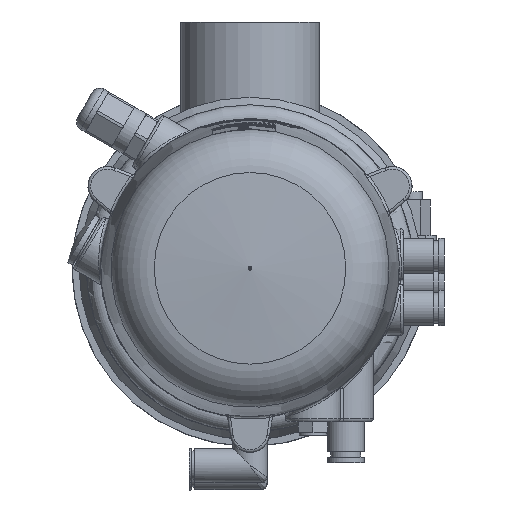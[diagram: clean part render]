
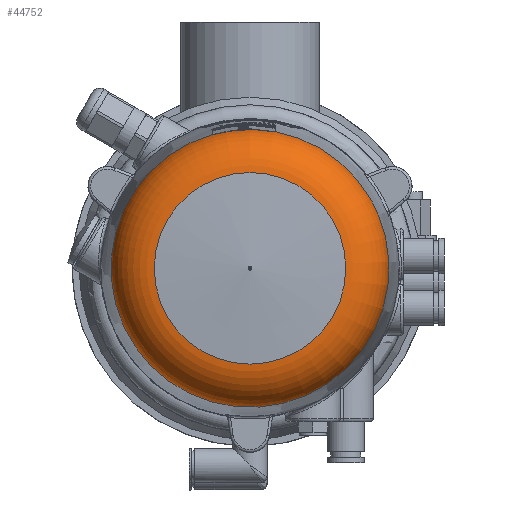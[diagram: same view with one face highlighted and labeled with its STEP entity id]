
A CAD part, front view. The second image highlights one B-rep face of the part: STEP entity #44752.
In plain terms, the highlighted toroidal (fillet/blend) face has major radius 33.812 mm and minor radius 17 mm.
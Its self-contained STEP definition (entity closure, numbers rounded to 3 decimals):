
#3540 = CIRCLE ( 'NONE', #62274, 50.791 ) ;
#3750 = B_SPLINE_CURVE_WITH_KNOTS ( 'NONE', 3,
 ( #10473, #14634, #38808, #34913 ),
 .UNSPECIFIED., .F., .F.,
 ( 4, 4 ),
 ( 0., 0. ),
 .UNSPECIFIED. ) ;
#5467 = CARTESIAN_POINT ( 'NONE',  ( -49.217, 140.491, -12.546 ) ) ;
#8172 = FACE_OUTER_BOUND ( 'NONE', #60494, .T. ) ;
#8367 = AXIS2_PLACEMENT_3D ( 'NONE', #31622, #37153, #52003 ) ;
#8687 = AXIS2_PLACEMENT_3D ( 'NONE', #46563, #31994, #51716 ) ;
#10473 = CARTESIAN_POINT ( 'NONE',  ( -38.515, 140.491, -33.11 ) ) ;
#12672 = FACE_OUTER_BOUND ( 'NONE', #31484, .T. ) ;
#14634 = CARTESIAN_POINT ( 'NONE',  ( -38.516, 140.482, -33.11 ) ) ;
#15420 = CARTESIAN_POINT ( 'NONE',  ( -49.217, 140.482, -12.546 ) ) ;
#18298 = CARTESIAN_POINT ( 'NONE',  ( 0., 140.463, 0. ) ) ;
#19104 = EDGE_CURVE ( 'NONE', #44800, #40242, #52983, .T. ) ;
#21043 = ORIENTED_EDGE ( 'NONE', *, *, #29715, .F. ) ;
#22588 = CARTESIAN_POINT ( 'NONE',  ( -49.217, 140.491, -12.546 ) ) ;
#26617 = CARTESIAN_POINT ( 'NONE',  ( 0., 156.588, -34.998 ) ) ;
#27379 = EDGE_CURVE ( 'NONE', #51284, #51750, #3750, .T. ) ;
#27840 = CARTESIAN_POINT ( 'NONE',  ( -38.515, 140.491, -33.11 ) ) ;
#28687 = EDGE_CURVE ( 'NONE', #51284, #44800, #3540, .T. ) ;
#28729 = DIRECTION ( 'NONE',  ( 0., 0., -1. ) ) ;
#29320 = DIRECTION ( 'NONE',  ( 0., 0., -1. ) ) ;
#29715 = EDGE_CURVE ( 'NONE', #51750, #40242, #49961, .T. ) ;
#31484 = EDGE_LOOP ( 'NONE', ( #48494, #39781, #54378, #21043 ) ) ;
#31622 = CARTESIAN_POINT ( 'NONE',  ( 0., 139.629, 0. ) ) ;
#31994 = DIRECTION ( 'NONE',  ( 0., -1., 0. ) ) ;
#34010 = TOROIDAL_SURFACE ( 'NONE', #8367, 33.812, 17. ) ;
#34913 = CARTESIAN_POINT ( 'NONE',  ( -38.517, 140.463, -33.11 ) ) ;
#36005 = VERTEX_POINT ( 'NONE', #26617 ) ;
#37153 = DIRECTION ( 'NONE',  ( 0., -1., 0. ) ) ;
#38027 = DIRECTION ( 'NONE',  ( 0., -1., 0. ) ) ;
#38623 = AXIS2_PLACEMENT_3D ( 'NONE', #18298, #38027, #29320 ) ;
#38808 = CARTESIAN_POINT ( 'NONE',  ( -38.516, 140.473, -33.11 ) ) ;
#39781 = ORIENTED_EDGE ( 'NONE', *, *, #28687, .T. ) ;
#40242 = VERTEX_POINT ( 'NONE', #45871 ) ;
#41620 = CIRCLE ( 'NONE', #8687, 34.998 ) ;
#44752 = ADVANCED_FACE ( 'NONE', ( #12672, #8172 ), #34010, .T. ) ;
#44800 = VERTEX_POINT ( 'NONE', #22588 ) ;
#45871 = CARTESIAN_POINT ( 'NONE',  ( -49.218, 140.463, -12.546 ) ) ;
#46563 = CARTESIAN_POINT ( 'NONE',  ( 0., 156.588, 0. ) ) ;
#48494 = ORIENTED_EDGE ( 'NONE', *, *, #27379, .F. ) ;
#49027 = DIRECTION ( 'NONE',  ( 0., 1., 0. ) ) ;
#49961 = CIRCLE ( 'NONE', #38623, 50.792 ) ;
#50894 = CARTESIAN_POINT ( 'NONE',  ( -38.517, 140.463, -33.11 ) ) ;
#51112 = ORIENTED_EDGE ( 'NONE', *, *, #63347, .T. ) ;
#51284 = VERTEX_POINT ( 'NONE', #27840 ) ;
#51716 = DIRECTION ( 'NONE',  ( 0., 0., -1. ) ) ;
#51750 = VERTEX_POINT ( 'NONE', #50894 ) ;
#52003 = DIRECTION ( 'NONE',  ( 0., 0., -1. ) ) ;
#52983 = B_SPLINE_CURVE_WITH_KNOTS ( 'NONE', 3,
 ( #5467, #15420, #59339, #55734 ),
 .UNSPECIFIED., .F., .F.,
 ( 4, 4 ),
 ( 0., 0. ),
 .UNSPECIFIED. ) ;
#54378 = ORIENTED_EDGE ( 'NONE', *, *, #19104, .T. ) ;
#55734 = CARTESIAN_POINT ( 'NONE',  ( -49.218, 140.463, -12.546 ) ) ;
#59339 = CARTESIAN_POINT ( 'NONE',  ( -49.218, 140.473, -12.546 ) ) ;
#60494 = EDGE_LOOP ( 'NONE', ( #51112 ) ) ;
#62274 = AXIS2_PLACEMENT_3D ( 'NONE', #62942, #49027, #28729 ) ;
#62942 = CARTESIAN_POINT ( 'NONE',  ( 0., 140.491, 0. ) ) ;
#63347 = EDGE_CURVE ( 'NONE', #36005, #36005, #41620, .T. ) ;
